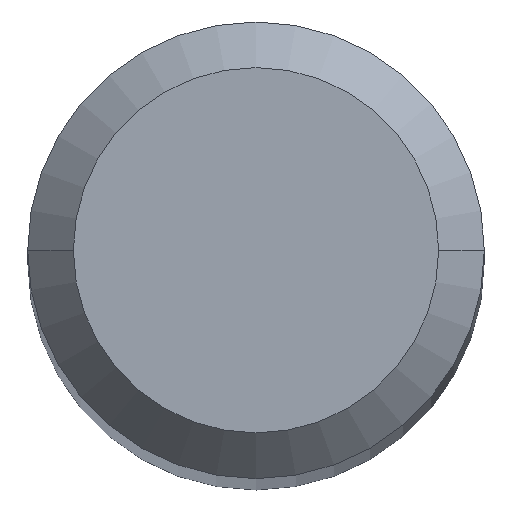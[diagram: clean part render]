
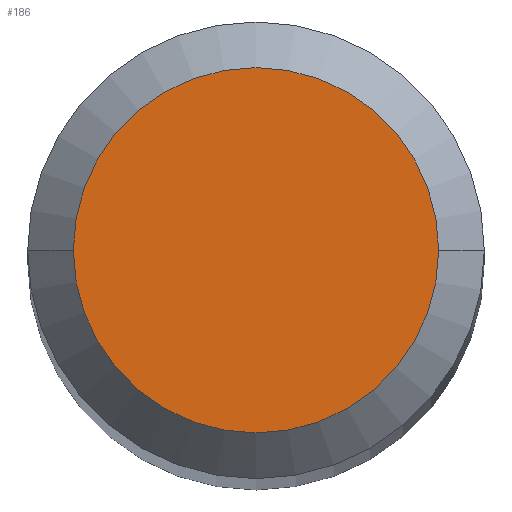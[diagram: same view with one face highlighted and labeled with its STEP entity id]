
A CAD part, top view. The second image highlights one B-rep face of the part: STEP entity #186.
In plain terms, the highlighted planar face has unit normal (0, 0, 1).
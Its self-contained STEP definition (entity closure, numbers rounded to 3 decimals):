
#15 = CIRCLE ( 'NONE', #559, 1.2 ) ;
#39 = PLANE ( 'NONE',  #199 ) ;
#109 = VERTEX_POINT ( 'NONE', #183 ) ;
#111 = DIRECTION ( 'NONE',  ( -1., 0., 0. ) ) ;
#131 = AXIS2_PLACEMENT_3D ( 'NONE', #605, #251, #111 ) ;
#134 = FACE_OUTER_BOUND ( 'NONE', #182, .T. ) ;
#157 = CARTESIAN_POINT ( 'NONE',  ( 0., 0., 0. ) ) ;
#165 = ORIENTED_EDGE ( 'NONE', *, *, #444, .F. ) ;
#182 = EDGE_LOOP ( 'NONE', ( #165, #328 ) ) ;
#183 = CARTESIAN_POINT ( 'NONE',  ( 1.2, 0., 0. ) ) ;
#186 = ADVANCED_FACE ( 'NONE', ( #134 ), #39, .T. ) ;
#199 = AXIS2_PLACEMENT_3D ( 'NONE', #221, #413, #574 ) ;
#221 = CARTESIAN_POINT ( 'NONE',  ( 0., 1.2, 0. ) ) ;
#251 = DIRECTION ( 'NONE',  ( 0., 0., -1. ) ) ;
#266 = EDGE_CURVE ( 'NONE', #109, #590, #15, .T. ) ;
#328 = ORIENTED_EDGE ( 'NONE', *, *, #266, .F. ) ;
#396 = CIRCLE ( 'NONE', #131, 1.2 ) ;
#413 = DIRECTION ( 'NONE',  ( 0., 0., 1. ) ) ;
#437 = DIRECTION ( 'NONE',  ( -1., 0., 0. ) ) ;
#444 = EDGE_CURVE ( 'NONE', #590, #109, #396, .T. ) ;
#485 = DIRECTION ( 'NONE',  ( 0., 0., -1. ) ) ;
#511 = CARTESIAN_POINT ( 'NONE',  ( -1.2, 0., 0. ) ) ;
#559 = AXIS2_PLACEMENT_3D ( 'NONE', #157, #485, #437 ) ;
#574 = DIRECTION ( 'NONE',  ( 1., 0., 0. ) ) ;
#590 = VERTEX_POINT ( 'NONE', #511 ) ;
#605 = CARTESIAN_POINT ( 'NONE',  ( 0., 0., 0. ) ) ;
